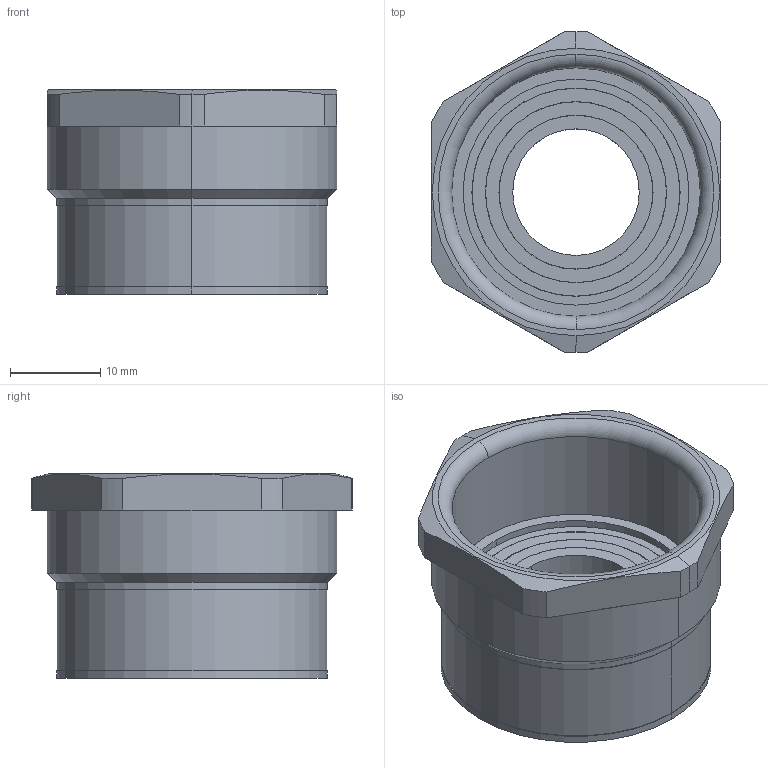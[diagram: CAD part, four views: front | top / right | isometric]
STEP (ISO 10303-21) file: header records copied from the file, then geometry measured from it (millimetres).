
FILE_DESCRIPTION (( 'STEP AP203' ), '1' );
FILE_NAME ('8M32UG.STEP', '2006-07-31T05:58:57', ( ' ' ), ( '' ), 'SwSTEP 2.0', 'SolidWorks 2005278', '' );
FILE_SCHEMA (( 'CONFIG_CONTROL_DESIGN' ));
Length unit declared in the file: millimetre
Products named in the file (1): 8M32UG
Bounding box: 32 x 35.5 x 22.6 mm (x, y, z)
Volume: 7926.1 mm3; surface area: 8143 mm2
Topology: 1 solids, 1 shells, 104 faces, 252 edges, 165 vertices
Faces by surface type: plane 63, cylinder 35, cone 4, torus 2
Entity records: 3170 total; most frequent: CARTESIAN_POINT 572, DIRECTION 543, ORIENTED_EDGE 504, EDGE_CURVE 252, AXIS2_PLACEMENT_3D 192, VERTEX_POINT 165, VECTOR 159, LINE 159
